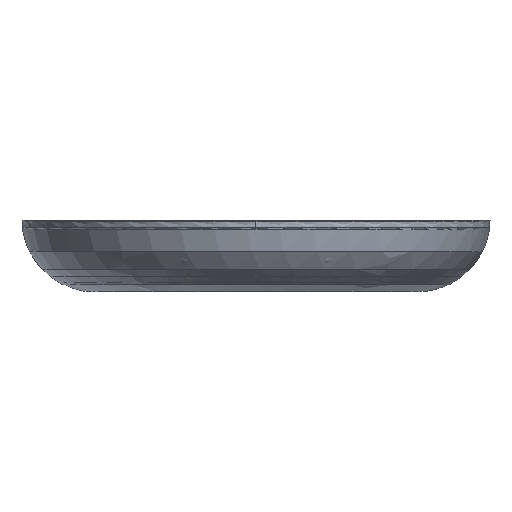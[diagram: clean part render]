
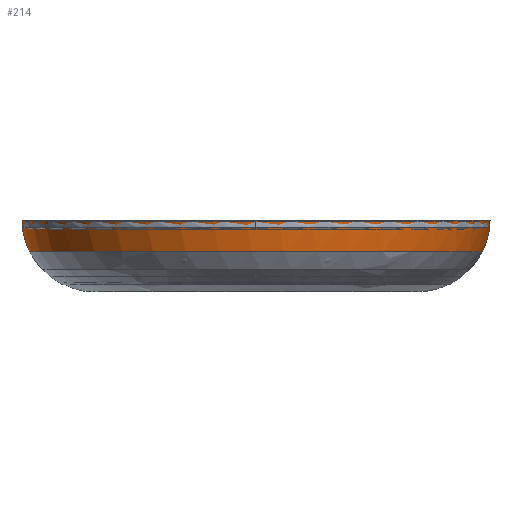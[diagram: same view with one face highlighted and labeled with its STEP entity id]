
A CAD part, front view. The second image highlights one B-rep face of the part: STEP entity #214.
In plain terms, the highlighted free-form (B-spline) face has degree [2, 2] with [9, 9] control points.
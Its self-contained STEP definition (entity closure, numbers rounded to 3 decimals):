
#214=ADVANCED_FACE('',(#665),#7325,.T.);
#665=FACE_OUTER_BOUND('',#1117,.T.);
#1117=EDGE_LOOP('',(#1730,#1731,#1732,#1733));
#1730=ORIENTED_EDGE('',*,*,#4073,.T.);
#1731=ORIENTED_EDGE('',*,*,#4074,.T.);
#1732=ORIENTED_EDGE('',*,*,#4072,.F.);
#1733=ORIENTED_EDGE('',*,*,#4075,.F.);
#4072=EDGE_CURVE('',#6438,#6439,#5790,.T.);
#4073=EDGE_CURVE('',#6429,#6428,#5791,.T.);
#4074=EDGE_CURVE('',#6428,#6439,#5792,.T.);
#4075=EDGE_CURVE('',#6429,#6438,#5793,.T.);
#5790=(
BOUNDED_CURVE()
B_SPLINE_CURVE(2,(#9195,#9196,#9197,#9198,#9199),.UNSPECIFIED.,.F.,.F.)
B_SPLINE_CURVE_WITH_KNOTS((3,2,3),(0.,344.026,688.052),
 .UNSPECIFIED.)
CURVE()
GEOMETRIC_REPRESENTATION_ITEM()
RATIONAL_B_SPLINE_CURVE((1.,0.707,1.,0.707,1.))
REPRESENTATION_ITEM('')
);
#5791=(
BOUNDED_CURVE()
B_SPLINE_CURVE(2,(#9200,#9201,#9202,#9203,#9204),.UNSPECIFIED.,.F.,.F.)
B_SPLINE_CURVE_WITH_KNOTS((3,2,3),(0.,469.579,939.158),
 .UNSPECIFIED.)
CURVE()
GEOMETRIC_REPRESENTATION_ITEM()
RATIONAL_B_SPLINE_CURVE((1.,0.707,1.,0.707,1.))
REPRESENTATION_ITEM('')
);
#5792=(
BOUNDED_CURVE()
B_SPLINE_CURVE(2,(#9205,#9206,#9207),.UNSPECIFIED.,.F.,.F.)
B_SPLINE_CURVE_WITH_KNOTS((3,3),(0.,42.95),.UNSPECIFIED.)
CURVE()
GEOMETRIC_REPRESENTATION_ITEM()
RATIONAL_B_SPLINE_CURVE((1.,0.972,1.))
REPRESENTATION_ITEM('')
);
#5793=(
BOUNDED_CURVE()
B_SPLINE_CURVE(2,(#9208,#9209,#9210),.UNSPECIFIED.,.F.,.F.)
B_SPLINE_CURVE_WITH_KNOTS((3,3),(522.45,565.4),
 .UNSPECIFIED.)
CURVE()
GEOMETRIC_REPRESENTATION_ITEM()
RATIONAL_B_SPLINE_CURVE((1.,0.972,1.))
REPRESENTATION_ITEM('')
);
#6428=VERTEX_POINT('',#9085);
#6429=VERTEX_POINT('',#9086);
#6438=VERTEX_POINT('',#9095);
#6439=VERTEX_POINT('',#9096);
#7325=(
BOUNDED_SURFACE()
B_SPLINE_SURFACE(2,2,((#8699,#8700,#8701,#8702,#8703,#8704,#8705,#8706,
#8707),(#8708,#8709,#8710,#8711,#8712,#8713,#8714,#8715,#8716),(#8717,#8718,
#8719,#8720,#8721,#8722,#8723,#8724,#8725),(#8726,#8727,#8728,#8729,#8730,
#8731,#8732,#8733,#8734),(#8735,#8736,#8737,#8738,#8739,#8740,#8741,#8742,
#8743),(#8744,#8745,#8746,#8747,#8748,#8749,#8750,#8751,#8752),(#8753,#8754,
#8755,#8756,#8757,#8758,#8759,#8760,#8761),(#8762,#8763,#8764,#8765,#8766,
#8767,#8768,#8769,#8770),(#8771,#8772,#8773,#8774,#8775,#8776,#8777,#8778,
#8779)),.UNSPECIFIED.,.T.,.F.,.F.)
B_SPLINE_SURFACE_WITH_KNOTS((3,2,2,2,3),(3,2,2,2,3),(0.,344.026,
688.052,1032.078,1376.104),(0.,141.35,282.7,
424.05,565.4),.UNSPECIFIED.)
GEOMETRIC_REPRESENTATION_ITEM()
RATIONAL_B_SPLINE_SURFACE(((1.,0.707,1.,0.707,1.,
0.707,1.,0.707,1.),(0.707,0.5,0.707,
0.5,0.707,0.5,0.707,0.5,0.707),(1.,
0.707,1.,0.707,1.,0.707,1.,0.707,
1.),(0.707,0.5,0.707,0.5,0.707,0.5,
0.707,0.5,0.707),(1.,0.707,1.,0.707,
1.,0.707,1.,0.707,1.),(0.707,0.5,0.707,
0.5,0.707,0.5,0.707,0.5,0.707),(1.,
0.707,1.,0.707,1.,0.707,1.,0.707,
1.),(0.707,0.5,0.707,0.5,0.707,0.5,
0.707,0.5,0.707),(1.,0.707,1.,0.707,
1.,0.707,1.,0.707,1.)))
REPRESENTATION_ITEM('')
SURFACE()
);
#8699=CARTESIAN_POINT('',(-309.,0.,0.));
#8700=CARTESIAN_POINT('',(-309.,89.986,0.));
#8701=CARTESIAN_POINT('',(-219.014,89.986,0.));
#8702=CARTESIAN_POINT('',(-129.027,89.986,0.));
#8703=CARTESIAN_POINT('',(-129.027,0.,0.));
#8704=CARTESIAN_POINT('',(-129.027,-89.986,0.));
#8705=CARTESIAN_POINT('',(-219.014,-89.986,0.));
#8706=CARTESIAN_POINT('',(-309.,-89.986,0.));
#8707=CARTESIAN_POINT('',(-309.,0.,0.));
#8708=CARTESIAN_POINT('',(-309.,0.,309.));
#8709=CARTESIAN_POINT('',(-309.,89.986,309.));
#8710=CARTESIAN_POINT('',(-219.014,89.986,219.014));
#8711=CARTESIAN_POINT('',(-129.027,89.986,129.027));
#8712=CARTESIAN_POINT('',(-129.027,0.,129.027));
#8713=CARTESIAN_POINT('',(-129.027,-89.986,129.027));
#8714=CARTESIAN_POINT('',(-219.014,-89.986,219.014));
#8715=CARTESIAN_POINT('',(-309.,-89.986,309.));
#8716=CARTESIAN_POINT('',(-309.,0.,309.));
#8717=CARTESIAN_POINT('',(0.,0.,309.));
#8718=CARTESIAN_POINT('',(0.,89.986,309.));
#8719=CARTESIAN_POINT('',(0.,89.986,219.014));
#8720=CARTESIAN_POINT('',(0.,89.986,129.027));
#8721=CARTESIAN_POINT('',(0.,0.,129.027));
#8722=CARTESIAN_POINT('',(0.,-89.986,129.027));
#8723=CARTESIAN_POINT('',(0.,-89.986,219.014));
#8724=CARTESIAN_POINT('',(0.,-89.986,309.));
#8725=CARTESIAN_POINT('',(0.,0.,309.));
#8726=CARTESIAN_POINT('',(309.,0.,309.));
#8727=CARTESIAN_POINT('',(309.,89.986,309.));
#8728=CARTESIAN_POINT('',(219.014,89.986,219.014));
#8729=CARTESIAN_POINT('',(129.027,89.986,129.027));
#8730=CARTESIAN_POINT('',(129.027,0.,129.027));
#8731=CARTESIAN_POINT('',(129.027,-89.986,129.027));
#8732=CARTESIAN_POINT('',(219.014,-89.986,219.014));
#8733=CARTESIAN_POINT('',(309.,-89.986,309.));
#8734=CARTESIAN_POINT('',(309.,0.,309.));
#8735=CARTESIAN_POINT('',(309.,0.,0.));
#8736=CARTESIAN_POINT('',(309.,89.986,0.));
#8737=CARTESIAN_POINT('',(219.014,89.986,0.));
#8738=CARTESIAN_POINT('',(129.027,89.986,0.));
#8739=CARTESIAN_POINT('',(129.027,0.,0.));
#8740=CARTESIAN_POINT('',(129.027,-89.986,0.));
#8741=CARTESIAN_POINT('',(219.014,-89.986,0.));
#8742=CARTESIAN_POINT('',(309.,-89.986,0.));
#8743=CARTESIAN_POINT('',(309.,0.,0.));
#8744=CARTESIAN_POINT('',(309.,0.,-309.));
#8745=CARTESIAN_POINT('',(309.,89.986,-309.));
#8746=CARTESIAN_POINT('',(219.014,89.986,-219.014));
#8747=CARTESIAN_POINT('',(129.027,89.986,-129.027));
#8748=CARTESIAN_POINT('',(129.027,0.,-129.027));
#8749=CARTESIAN_POINT('',(129.027,-89.986,-129.027));
#8750=CARTESIAN_POINT('',(219.014,-89.986,-219.014));
#8751=CARTESIAN_POINT('',(309.,-89.986,-309.));
#8752=CARTESIAN_POINT('',(309.,0.,-309.));
#8753=CARTESIAN_POINT('',(0.,0.,-309.));
#8754=CARTESIAN_POINT('',(0.,89.986,-309.));
#8755=CARTESIAN_POINT('',(0.,89.986,-219.014));
#8756=CARTESIAN_POINT('',(0.,89.986,-129.027));
#8757=CARTESIAN_POINT('',(0.,0.,-129.027));
#8758=CARTESIAN_POINT('',(0.,-89.986,-129.027));
#8759=CARTESIAN_POINT('',(0.,-89.986,-219.014));
#8760=CARTESIAN_POINT('',(0.,-89.986,-309.));
#8761=CARTESIAN_POINT('',(0.,0.,-309.));
#8762=CARTESIAN_POINT('',(-309.,0.,-309.));
#8763=CARTESIAN_POINT('',(-309.,89.986,-309.));
#8764=CARTESIAN_POINT('',(-219.014,89.986,-219.014));
#8765=CARTESIAN_POINT('',(-129.027,89.986,-129.027));
#8766=CARTESIAN_POINT('',(-129.027,0.,-129.027));
#8767=CARTESIAN_POINT('',(-129.027,-89.986,-129.027));
#8768=CARTESIAN_POINT('',(-219.014,-89.986,-219.014));
#8769=CARTESIAN_POINT('',(-309.,-89.986,-309.));
#8770=CARTESIAN_POINT('',(-309.,0.,-309.));
#8771=CARTESIAN_POINT('',(-309.,0.,0.));
#8772=CARTESIAN_POINT('',(-309.,89.986,0.));
#8773=CARTESIAN_POINT('',(-219.014,89.986,0.));
#8774=CARTESIAN_POINT('',(-129.027,89.986,0.));
#8775=CARTESIAN_POINT('',(-129.027,0.,0.));
#8776=CARTESIAN_POINT('',(-129.027,-89.986,0.));
#8777=CARTESIAN_POINT('',(-219.014,-89.986,0.));
#8778=CARTESIAN_POINT('',(-309.,-89.986,0.));
#8779=CARTESIAN_POINT('',(-309.,0.,0.));
#9085=CARTESIAN_POINT('',(298.943,-41.338,0.));
#9086=CARTESIAN_POINT('',(-298.943,-41.338,0.));
#9095=CARTESIAN_POINT('',(-309.,0.,0.));
#9096=CARTESIAN_POINT('',(309.,0.,0.));
#9195=CARTESIAN_POINT('',(-309.,0.,0.));
#9196=CARTESIAN_POINT('',(-309.,0.,309.));
#9197=CARTESIAN_POINT('',(0.,0.,309.));
#9198=CARTESIAN_POINT('',(309.,0.,309.));
#9199=CARTESIAN_POINT('',(309.,0.,0.));
#9200=CARTESIAN_POINT('',(-298.943,-41.338,0.));
#9201=CARTESIAN_POINT('',(-298.943,-41.338,298.943));
#9202=CARTESIAN_POINT('',(0.,-41.338,298.943));
#9203=CARTESIAN_POINT('',(298.943,-41.338,298.943));
#9204=CARTESIAN_POINT('',(298.943,-41.338,0.));
#9205=CARTESIAN_POINT('',(298.943,-41.338,0.));
#9206=CARTESIAN_POINT('',(309.,-21.892,0.));
#9207=CARTESIAN_POINT('',(309.,0.,0.));
#9208=CARTESIAN_POINT('',(-298.943,-41.338,0.));
#9209=CARTESIAN_POINT('',(-309.,-21.892,0.));
#9210=CARTESIAN_POINT('',(-309.,0.,0.));
